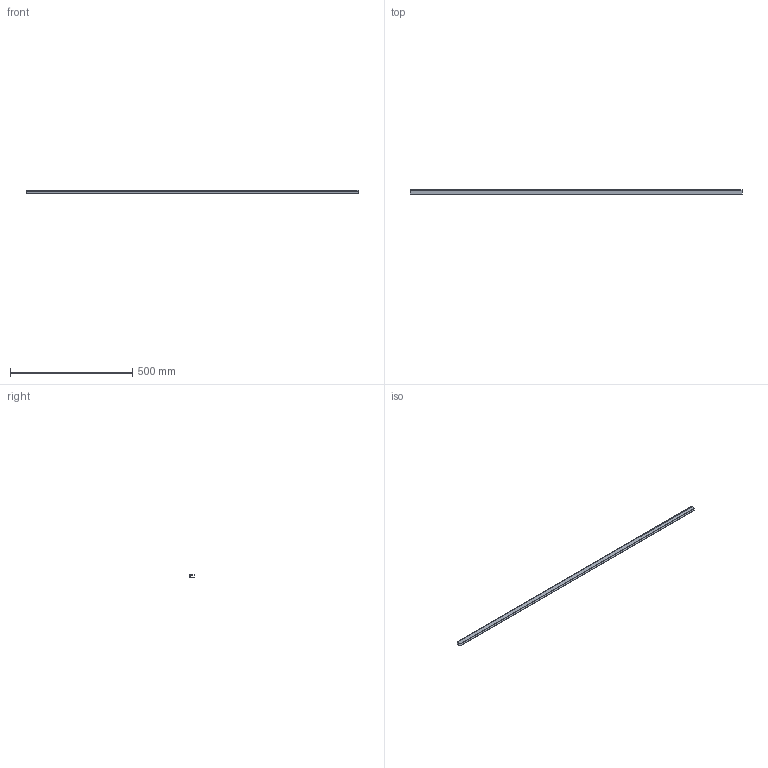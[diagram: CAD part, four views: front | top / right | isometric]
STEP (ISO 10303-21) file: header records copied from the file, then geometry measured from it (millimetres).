
FILE_DESCRIPTION(/* description */ (''),/* implementation_level */ '2;1');
FILE_NAME(/* name */ 'Pos120-GLASLAT T.B.V. PV-SCHERM-Aluminium-4st',/* time_stamp */ '2024-08-06T11:49:43+02:00',/* author */ (''),/* organization */ (''),/* preprocessor_version */ 'ST-DEVELOPER v16.5',/* originating_system */ 'HiCAD 2024 2901.2 Build 361',/* authorisation */ '');
FILE_SCHEMA (('AUTOMOTIVE_DESIGN { 1 0 10303 214 1 1 1 1 }'));
Length unit declared in the file: millimetre
Products named in the file (1): Pos120-GLASLAT T.B.V. PV-SCHERM-Aluminium-4st
Bounding box: 1359 x 17 x 12.5 mm (x, y, z)
Volume: 75424.5 mm3; surface area: 122421 mm2
Topology: 1 solids, 1 shells, 12 faces, 30 edges, 20 vertices
Faces by surface type: plane 12
Entity records: 672 total; most frequent: CARTESIAN_POINT 62, PRESENTATION_STYLE_ASSIGNMENT 61, COLOUR_RGB 61, DRAUGHTING_PRE_DEFINED_CURVE_FONT 60, CURVE_STYLE 60, OVER_RIDING_STYLED_ITEM 60, ORIENTED_EDGE 60, DIRECTION 54
